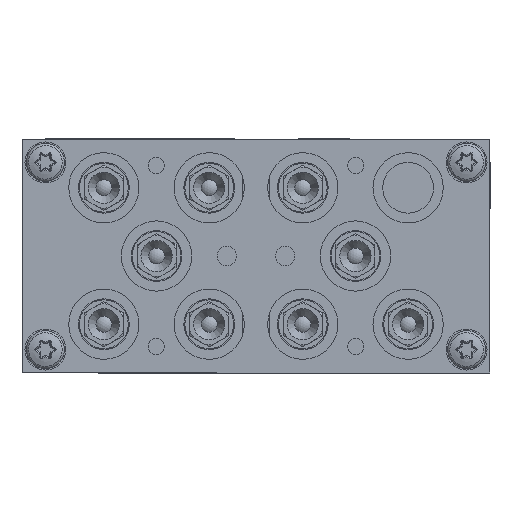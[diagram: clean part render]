
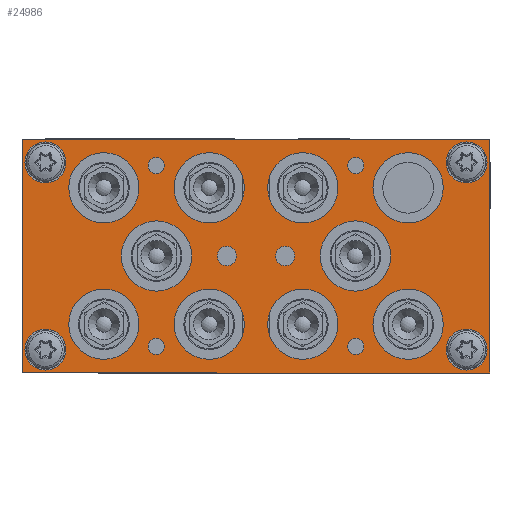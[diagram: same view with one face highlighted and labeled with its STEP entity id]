
A CAD part, left-side view. The second image highlights one B-rep face of the part: STEP entity #24986.
In plain terms, the highlighted planar face has unit normal (-1, 0, 0) as drawn and (0, 0, 1) by its records, which use the part's own axes.
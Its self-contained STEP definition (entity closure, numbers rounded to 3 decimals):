
#2368=LINE('',#59641,#3343);
#2372=LINE('',#59652,#3347);
#2376=LINE('',#59797,#3351);
#2377=LINE('',#59798,#3352);
#3343=VECTOR('',#30774,1000.);
#3347=VECTOR('',#30782,1000.);
#3351=VECTOR('',#30942,1000.);
#3352=VECTOR('',#30943,1000.);
#3719=PLANE('',#26693);
#8565=ORIENTED_EDGE('',*,*,#11209,.F.);
#8566=ORIENTED_EDGE('',*,*,#11210,.F.);
#8567=ORIENTED_EDGE('',*,*,#11211,.F.);
#8568=ORIENTED_EDGE('',*,*,#11212,.F.);
#8569=ORIENTED_EDGE('',*,*,#11213,.F.);
#8570=ORIENTED_EDGE('',*,*,#11214,.F.);
#8571=ORIENTED_EDGE('',*,*,#11215,.T.);
#8572=ORIENTED_EDGE('',*,*,#11216,.T.);
#8573=ORIENTED_EDGE('',*,*,#11217,.T.);
#8574=ORIENTED_EDGE('',*,*,#11218,.T.);
#8575=ORIENTED_EDGE('',*,*,#11219,.T.);
#8576=ORIENTED_EDGE('',*,*,#11220,.T.);
#8577=ORIENTED_EDGE('',*,*,#11221,.T.);
#8578=ORIENTED_EDGE('',*,*,#11151,.T.);
#8579=ORIENTED_EDGE('',*,*,#11222,.T.);
#8580=ORIENTED_EDGE('',*,*,#11156,.T.);
#8581=ORIENTED_EDGE('',*,*,#11223,.T.);
#8582=ORIENTED_EDGE('',*,*,#11224,.T.);
#8583=ORIENTED_EDGE('',*,*,#11225,.T.);
#8584=ORIENTED_EDGE('',*,*,#11226,.T.);
#8585=ORIENTED_EDGE('',*,*,#11227,.T.);
#8586=ORIENTED_EDGE('',*,*,#11228,.T.);
#8587=ORIENTED_EDGE('',*,*,#11229,.T.);
#8588=ORIENTED_EDGE('',*,*,#11230,.T.);
#11151=EDGE_CURVE('',#12758,#12757,#2368,.T.);
#11156=EDGE_CURVE('',#12763,#12762,#2372,.T.);
#11209=EDGE_CURVE('',#12813,#12813,#13588,.T.);
#11210=EDGE_CURVE('',#12814,#12814,#13589,.T.);
#11211=EDGE_CURVE('',#12815,#12815,#13590,.T.);
#11212=EDGE_CURVE('',#12816,#12816,#13591,.T.);
#11213=EDGE_CURVE('',#12817,#12817,#13592,.T.);
#11214=EDGE_CURVE('',#12818,#12818,#13593,.T.);
#11215=EDGE_CURVE('',#12819,#12819,#13594,.T.);
#11216=EDGE_CURVE('',#12820,#12820,#13595,.T.);
#11217=EDGE_CURVE('',#12821,#12821,#13596,.T.);
#11218=EDGE_CURVE('',#12822,#12822,#13597,.T.);
#11219=EDGE_CURVE('',#12823,#12823,#13598,.T.);
#11220=EDGE_CURVE('',#12824,#12824,#13599,.T.);
#11221=EDGE_CURVE('',#12825,#12825,#13600,.T.);
#11222=EDGE_CURVE('',#12757,#12763,#2376,.T.);
#11223=EDGE_CURVE('',#12762,#12758,#2377,.T.);
#11224=EDGE_CURVE('',#12826,#12826,#13601,.T.);
#11225=EDGE_CURVE('',#12827,#12827,#13602,.T.);
#11226=EDGE_CURVE('',#12828,#12828,#13603,.T.);
#11227=EDGE_CURVE('',#12829,#12829,#13604,.T.);
#11228=EDGE_CURVE('',#12830,#12830,#13605,.T.);
#11229=EDGE_CURVE('',#12831,#12831,#13606,.T.);
#11230=EDGE_CURVE('',#12832,#12832,#13607,.T.);
#12757=VERTEX_POINT('',#59640);
#12758=VERTEX_POINT('',#59642);
#12762=VERTEX_POINT('',#59651);
#12763=VERTEX_POINT('',#59653);
#12813=VERTEX_POINT('',#59772);
#12814=VERTEX_POINT('',#59774);
#12815=VERTEX_POINT('',#59776);
#12816=VERTEX_POINT('',#59778);
#12817=VERTEX_POINT('',#59780);
#12818=VERTEX_POINT('',#59782);
#12819=VERTEX_POINT('',#59784);
#12820=VERTEX_POINT('',#59786);
#12821=VERTEX_POINT('',#59788);
#12822=VERTEX_POINT('',#59790);
#12823=VERTEX_POINT('',#59792);
#12824=VERTEX_POINT('',#59794);
#12825=VERTEX_POINT('',#59796);
#12826=VERTEX_POINT('',#59800);
#12827=VERTEX_POINT('',#59802);
#12828=VERTEX_POINT('',#59804);
#12829=VERTEX_POINT('',#59806);
#12830=VERTEX_POINT('',#59808);
#12831=VERTEX_POINT('',#59810);
#12832=VERTEX_POINT('',#59812);
#13588=CIRCLE('',#26694,2.067);
#13589=CIRCLE('',#26695,2.067);
#13590=CIRCLE('',#26696,2.067);
#13591=CIRCLE('',#26697,2.067);
#13592=CIRCLE('',#26698,2.459);
#13593=CIRCLE('',#26699,2.459);
#13594=CIRCLE('',#26700,9.);
#13595=CIRCLE('',#26701,9.);
#13596=CIRCLE('',#26702,9.);
#13597=CIRCLE('',#26703,9.);
#13598=CIRCLE('',#26704,9.);
#13599=CIRCLE('',#26705,5.25);
#13600=CIRCLE('',#26706,5.25);
#13601=CIRCLE('',#26707,5.25);
#13602=CIRCLE('',#26708,9.);
#13603=CIRCLE('',#26709,9.);
#13604=CIRCLE('',#26710,9.);
#13605=CIRCLE('',#26711,9.);
#13606=CIRCLE('',#26712,9.);
#13607=CIRCLE('',#26713,5.25);
#14878=EDGE_LOOP('',(#8565));
#14879=EDGE_LOOP('',(#8566));
#14880=EDGE_LOOP('',(#8567));
#14881=EDGE_LOOP('',(#8568));
#14882=EDGE_LOOP('',(#8569));
#14883=EDGE_LOOP('',(#8570));
#14884=EDGE_LOOP('',(#8571));
#14885=EDGE_LOOP('',(#8572));
#14886=EDGE_LOOP('',(#8573));
#14887=EDGE_LOOP('',(#8574));
#14888=EDGE_LOOP('',(#8575));
#14889=EDGE_LOOP('',(#8576));
#14890=EDGE_LOOP('',(#8577));
#14891=EDGE_LOOP('',(#8578,#8579,#8580,#8581));
#14892=EDGE_LOOP('',(#8582));
#14893=EDGE_LOOP('',(#8583));
#14894=EDGE_LOOP('',(#8584));
#14895=EDGE_LOOP('',(#8585));
#14896=EDGE_LOOP('',(#8586));
#14897=EDGE_LOOP('',(#8587));
#14898=EDGE_LOOP('',(#8588));
#16269=FACE_BOUND('',#14878,.T.);
#16270=FACE_BOUND('',#14879,.T.);
#16271=FACE_BOUND('',#14880,.T.);
#16272=FACE_BOUND('',#14881,.T.);
#16273=FACE_BOUND('',#14882,.T.);
#16274=FACE_BOUND('',#14883,.T.);
#16275=FACE_BOUND('',#14884,.T.);
#16276=FACE_BOUND('',#14885,.T.);
#16277=FACE_BOUND('',#14886,.T.);
#16278=FACE_BOUND('',#14887,.T.);
#16279=FACE_BOUND('',#14888,.T.);
#16280=FACE_BOUND('',#14889,.T.);
#16281=FACE_BOUND('',#14890,.T.);
#16282=FACE_BOUND('',#14891,.T.);
#16283=FACE_BOUND('',#14892,.T.);
#16284=FACE_BOUND('',#14893,.T.);
#16285=FACE_BOUND('',#14894,.T.);
#16286=FACE_BOUND('',#14895,.T.);
#16287=FACE_BOUND('',#14896,.T.);
#16288=FACE_BOUND('',#14897,.T.);
#16289=FACE_BOUND('',#14898,.T.);
#24986=ADVANCED_FACE('',(#16269,#16270,#16271,#16272,#16273,#16274,#16275,
#16276,#16277,#16278,#16279,#16280,#16281,#16282,#16283,#16284,#16285,#16286,
#16287,#16288,#16289),#3719,.T.);
#26693=AXIS2_PLACEMENT_3D('',#59770,#30914,#30915);
#26694=AXIS2_PLACEMENT_3D('',#59771,#30916,#30917);
#26695=AXIS2_PLACEMENT_3D('',#59773,#30918,#30919);
#26696=AXIS2_PLACEMENT_3D('',#59775,#30920,#30921);
#26697=AXIS2_PLACEMENT_3D('',#59777,#30922,#30923);
#26698=AXIS2_PLACEMENT_3D('',#59779,#30924,#30925);
#26699=AXIS2_PLACEMENT_3D('',#59781,#30926,#30927);
#26700=AXIS2_PLACEMENT_3D('',#59783,#30928,#30929);
#26701=AXIS2_PLACEMENT_3D('',#59785,#30930,#30931);
#26702=AXIS2_PLACEMENT_3D('',#59787,#30932,#30933);
#26703=AXIS2_PLACEMENT_3D('',#59789,#30934,#30935);
#26704=AXIS2_PLACEMENT_3D('',#59791,#30936,#30937);
#26705=AXIS2_PLACEMENT_3D('',#59793,#30938,#30939);
#26706=AXIS2_PLACEMENT_3D('',#59795,#30940,#30941);
#26707=AXIS2_PLACEMENT_3D('',#59799,#30944,#30945);
#26708=AXIS2_PLACEMENT_3D('',#59801,#30946,#30947);
#26709=AXIS2_PLACEMENT_3D('',#59803,#30948,#30949);
#26710=AXIS2_PLACEMENT_3D('',#59805,#30950,#30951);
#26711=AXIS2_PLACEMENT_3D('',#59807,#30952,#30953);
#26712=AXIS2_PLACEMENT_3D('',#59809,#30954,#30955);
#26713=AXIS2_PLACEMENT_3D('',#59811,#30956,#30957);
#30774=DIRECTION('',(-1.,0.,0.));
#30782=DIRECTION('',(1.,0.,0.));
#30914=DIRECTION('',(0.,0.,1.));
#30915=DIRECTION('',(1.,0.,0.));
#30916=DIRECTION('',(0.,0.,1.));
#30917=DIRECTION('',(1.,0.,0.));
#30918=DIRECTION('',(0.,0.,1.));
#30919=DIRECTION('',(1.,0.,0.));
#30920=DIRECTION('',(0.,0.,1.));
#30921=DIRECTION('',(1.,0.,0.));
#30922=DIRECTION('',(0.,0.,1.));
#30923=DIRECTION('',(1.,0.,0.));
#30924=DIRECTION('',(0.,0.,1.));
#30925=DIRECTION('',(1.,0.,0.));
#30926=DIRECTION('',(0.,0.,1.));
#30927=DIRECTION('',(1.,0.,0.));
#30928=DIRECTION('',(0.,0.,-1.));
#30929=DIRECTION('',(1.,0.,0.));
#30930=DIRECTION('',(0.,0.,-1.));
#30931=DIRECTION('',(1.,0.,0.));
#30932=DIRECTION('',(0.,0.,-1.));
#30933=DIRECTION('',(1.,0.,0.));
#30934=DIRECTION('',(0.,0.,-1.));
#30935=DIRECTION('',(1.,0.,0.));
#30936=DIRECTION('',(0.,0.,-1.));
#30937=DIRECTION('',(1.,0.,0.));
#30938=DIRECTION('',(0.,0.,-1.));
#30939=DIRECTION('',(1.,0.,0.));
#30940=DIRECTION('',(0.,0.,-1.));
#30941=DIRECTION('',(1.,0.,0.));
#30942=DIRECTION('',(0.,-1.,0.));
#30943=DIRECTION('',(0.,1.,0.));
#30944=DIRECTION('',(0.,0.,-1.));
#30945=DIRECTION('',(1.,0.,0.));
#30946=DIRECTION('',(0.,0.,-1.));
#30947=DIRECTION('',(1.,0.,0.));
#30948=DIRECTION('',(0.,0.,-1.));
#30949=DIRECTION('',(1.,0.,0.));
#30950=DIRECTION('',(0.,0.,-1.));
#30951=DIRECTION('',(1.,0.,0.));
#30952=DIRECTION('',(0.,0.,-1.));
#30953=DIRECTION('',(1.,0.,0.));
#30954=DIRECTION('',(0.,0.,-1.));
#30955=DIRECTION('',(1.,0.,0.));
#30956=DIRECTION('',(0.,0.,-1.));
#30957=DIRECTION('',(1.,0.,0.));
#59640=CARTESIAN_POINT('',(-60.,30.,15.));
#59641=CARTESIAN_POINT('',(60.,30.,15.));
#59642=CARTESIAN_POINT('',(60.,30.,15.));
#59651=CARTESIAN_POINT('',(60.,-30.,15.));
#59652=CARTESIAN_POINT('',(-60.,-30.,15.));
#59653=CARTESIAN_POINT('',(-60.,-30.,15.));
#59770=CARTESIAN_POINT('',(-60.,30.,15.));
#59771=CARTESIAN_POINT('',(25.6,23.2,15.));
#59772=CARTESIAN_POINT('',(27.667,23.2,15.));
#59773=CARTESIAN_POINT('',(-25.6,23.2,15.));
#59774=CARTESIAN_POINT('',(-23.533,23.2,15.));
#59775=CARTESIAN_POINT('',(-25.6,-23.2,15.));
#59776=CARTESIAN_POINT('',(-23.533,-23.2,15.));
#59777=CARTESIAN_POINT('',(25.6,-23.2,15.));
#59778=CARTESIAN_POINT('',(27.667,-23.2,15.));
#59779=CARTESIAN_POINT('',(7.5,0.,15.));
#59780=CARTESIAN_POINT('',(9.959,0.,15.));
#59781=CARTESIAN_POINT('',(-7.5,0.,15.));
#59782=CARTESIAN_POINT('',(-5.041,0.,15.));
#59783=CARTESIAN_POINT('',(25.5,0.,15.));
#59784=CARTESIAN_POINT('',(34.5,0.,15.));
#59785=CARTESIAN_POINT('',(39.,17.5,15.));
#59786=CARTESIAN_POINT('',(48.,17.5,15.));
#59787=CARTESIAN_POINT('',(-39.,-17.5,15.));
#59788=CARTESIAN_POINT('',(-30.,-17.5,15.));
#59789=CARTESIAN_POINT('',(-12.,-17.5,15.));
#59790=CARTESIAN_POINT('',(-3.,-17.5,15.));
#59791=CARTESIAN_POINT('',(12.,17.5,15.));
#59792=CARTESIAN_POINT('',(21.,17.5,15.));
#59793=CARTESIAN_POINT('',(-54.,-24.,15.));
#59794=CARTESIAN_POINT('',(-48.75,-24.,15.));
#59795=CARTESIAN_POINT('',(54.,24.,15.));
#59796=CARTESIAN_POINT('',(59.25,24.,15.));
#59797=CARTESIAN_POINT('',(-60.,30.,15.));
#59798=CARTESIAN_POINT('',(60.,-30.,15.));
#59799=CARTESIAN_POINT('',(54.,-24.,15.));
#59800=CARTESIAN_POINT('',(59.25,-24.,15.));
#59801=CARTESIAN_POINT('',(-12.,17.5,15.));
#59802=CARTESIAN_POINT('',(-3.,17.5,15.));
#59803=CARTESIAN_POINT('',(12.,-17.5,15.));
#59804=CARTESIAN_POINT('',(21.,-17.5,15.));
#59805=CARTESIAN_POINT('',(-39.,17.5,15.));
#59806=CARTESIAN_POINT('',(-30.,17.5,15.));
#59807=CARTESIAN_POINT('',(39.,-17.5,15.));
#59808=CARTESIAN_POINT('',(48.,-17.5,15.));
#59809=CARTESIAN_POINT('',(-25.5,0.,15.));
#59810=CARTESIAN_POINT('',(-16.5,0.,15.));
#59811=CARTESIAN_POINT('',(-54.,24.,15.));
#59812=CARTESIAN_POINT('',(-48.75,24.,15.));
